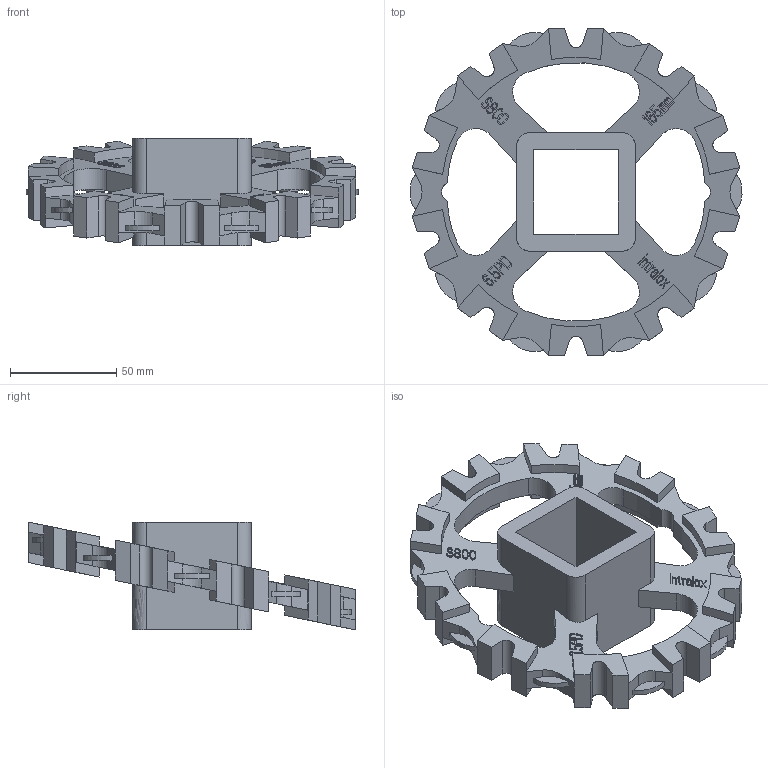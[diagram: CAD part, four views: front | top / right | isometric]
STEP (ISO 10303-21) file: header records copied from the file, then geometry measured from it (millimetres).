
FILE_DESCRIPTION((''),'2;1');
FILE_NAME('S800_ANGLEEZCLEAN_65X15_40_SQ','2008-12-12T',('jmumphre'),(''),'PRO/ENGINEER BY PARAMETRIC TECHNOLOGY CORPORATION, 2008150','PRO/ENGINEER BY PARAMETRIC TECHNOLOGY CORPORATION, 2008150','');
FILE_SCHEMA(('CONFIG_CONTROL_DESIGN'));
Length unit declared in the file: inch
Products named in the file (1): S800_ANGLEEZCLEAN_65X15_40_SQ
Bounding box: 156.53 x 154.06 x 50.8 mm (x, y, z)
Volume: 182234.2 mm3; surface area: 58365.6 mm2
Topology: 1 solids, 1 shells, 1014 faces, 2915 edges, 1930 vertices
Faces by surface type: plane 910, cylinder 100, extrusion 4
Entity records: 33435 total; most frequent: CARTESIAN_POINT 7067, ORIENTED_EDGE 5830, DIRECTION 4827, EDGE_CURVE 2915, VECTOR 2711, LINE 2707, VERTEX_POINT 1930, AXIS2_PLACEMENT_3D 1058
